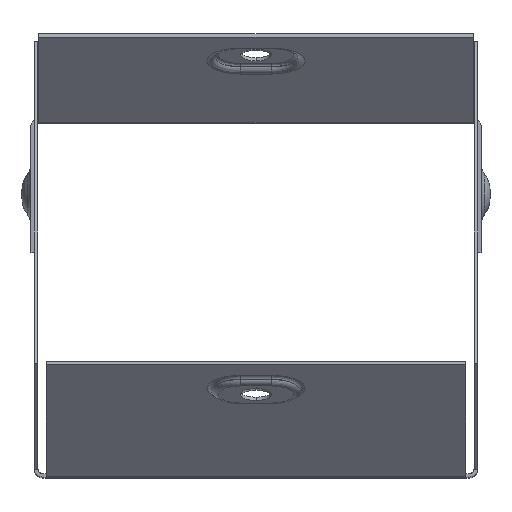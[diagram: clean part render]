
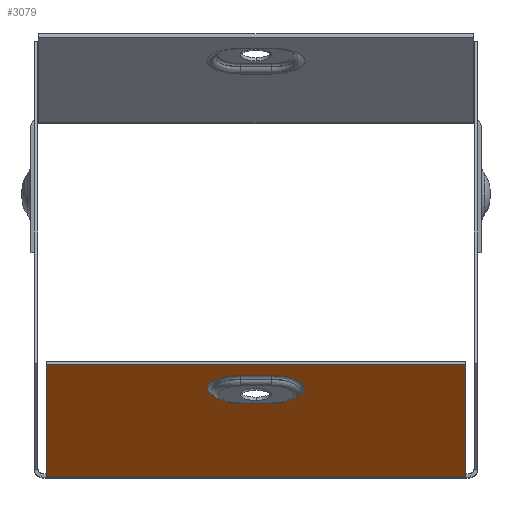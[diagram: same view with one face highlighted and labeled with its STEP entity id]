
A CAD part, top view. The second image highlights one B-rep face of the part: STEP entity #3079.
In plain terms, the highlighted planar face has unit normal (0, -0.924, 0.383).
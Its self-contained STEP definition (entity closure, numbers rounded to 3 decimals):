
#9 = VERTEX_POINT ( 'NONE', #7453 ) ;
#289 = VECTOR ( 'NONE', #3958, 1000. ) ;
#687 = CARTESIAN_POINT ( 'NONE',  ( 47.299, -80.663, 64.406 ) ) ;
#704 = FACE_BOUND ( 'NONE', #2503, .T. ) ;
#788 = DIRECTION ( 'NONE',  ( 0., 0.924, -0.383 ) ) ;
#1129 = CIRCLE ( 'NONE', #5383, 7.598 ) ;
#1422 = EDGE_LOOP ( 'NONE', ( #3734, #10194, #3501, #9324 ) ) ;
#1622 = CARTESIAN_POINT ( 'NONE',  ( -47.299, -80.8, 64.075 ) ) ;
#2236 = EDGE_CURVE ( 'NONE', #6516, #9, #4136, .T. ) ;
#2260 = CIRCLE ( 'NONE', #9125, 7.598 ) ;
#2503 = EDGE_LOOP ( 'NONE', ( #10420, #8830, #9957, #5668 ) ) ;
#2644 = CARTESIAN_POINT ( 'NONE',  ( 47.299, -80.864, 63.921 ) ) ;
#3079 = ADVANCED_FACE ( 'NONE', ( #704, #13627 ), #6819, .F. ) ;
#3088 = EDGE_CURVE ( 'NONE', #3271, #8583, #7683, .T. ) ;
#3107 = VECTOR ( 'NONE', #10452, 1000. ) ;
#3271 = VERTEX_POINT ( 'NONE', #6485 ) ;
#3501 = ORIENTED_EDGE ( 'NONE', *, *, #11185, .T. ) ;
#3550 = DIRECTION ( 'NONE',  ( 0., 0.383, 0.924 ) ) ;
#3734 = ORIENTED_EDGE ( 'NONE', *, *, #2236, .T. ) ;
#3736 = EDGE_CURVE ( 'NONE', #9441, #9, #7323, .T. ) ;
#3958 = DIRECTION ( 'NONE',  ( -1., 0., 0. ) ) ;
#4136 = LINE ( 'NONE', #1622, #3107 ) ;
#4349 = VERTEX_POINT ( 'NONE', #12445 ) ;
#4437 = VECTOR ( 'NONE', #7502, 1000. ) ;
#4593 = VECTOR ( 'NONE', #10336, 1000. ) ;
#4919 = CARTESIAN_POINT ( 'NONE',  ( 48.2, -55.512, 125.125 ) ) ;
#4936 = LINE ( 'NONE', #2644, #4593 ) ;
#4985 = DIRECTION ( 'NONE',  ( 0., 0.924, -0.383 ) ) ;
#5215 = DIRECTION ( 'NONE',  ( 0., 0.383, 0.924 ) ) ;
#5383 = AXIS2_PLACEMENT_3D ( 'NONE', #12321, #12414, #7999 ) ;
#5543 = CARTESIAN_POINT ( 'NONE',  ( 3.5, -57.962, 119.21 ) ) ;
#5668 = ORIENTED_EDGE ( 'NONE', *, *, #6266, .T. ) ;
#6266 = EDGE_CURVE ( 'NONE', #8583, #6629, #1129, .T. ) ;
#6485 = CARTESIAN_POINT ( 'NONE',  ( 3.5, -63.778, 105.171 ) ) ;
#6516 = VERTEX_POINT ( 'NONE', #12738 ) ;
#6629 = VERTEX_POINT ( 'NONE', #8705 ) ;
#6816 = VECTOR ( 'NONE', #8850, 1000. ) ;
#6819 = PLANE ( 'NONE',  #8968 ) ;
#7323 = LINE ( 'NONE', #7345, #4437 ) ;
#7345 = CARTESIAN_POINT ( 'NONE',  ( 48.2, -80.663, 64.406 ) ) ;
#7453 = CARTESIAN_POINT ( 'NONE',  ( -47.299, -80.663, 64.406 ) ) ;
#7502 = DIRECTION ( 'NONE',  ( -1., 0., 0. ) ) ;
#7683 = LINE ( 'NONE', #11157, #12960 ) ;
#7999 = DIRECTION ( 'NONE',  ( 0., 0.383, 0.924 ) ) ;
#8428 = CARTESIAN_POINT ( 'NONE',  ( 3.5, -60.87, 112.191 ) ) ;
#8583 = VERTEX_POINT ( 'NONE', #13239 ) ;
#8666 = CARTESIAN_POINT ( 'NONE',  ( 3.5, -57.962, 119.21 ) ) ;
#8705 = CARTESIAN_POINT ( 'NONE',  ( -3.5, -57.962, 119.21 ) ) ;
#8830 = ORIENTED_EDGE ( 'NONE', *, *, #9357, .T. ) ;
#8850 = DIRECTION ( 'NONE',  ( 1., 0., 0. ) ) ;
#8968 = AXIS2_PLACEMENT_3D ( 'NONE', #12550, #4985, #3550 ) ;
#9125 = AXIS2_PLACEMENT_3D ( 'NONE', #8428, #788, #5215 ) ;
#9218 = LINE ( 'NONE', #5543, #6816 ) ;
#9324 = ORIENTED_EDGE ( 'NONE', *, *, #13724, .T. ) ;
#9357 = EDGE_CURVE ( 'NONE', #11085, #3271, #2260, .T. ) ;
#9441 = VERTEX_POINT ( 'NONE', #687 ) ;
#9957 = ORIENTED_EDGE ( 'NONE', *, *, #3088, .T. ) ;
#10181 = EDGE_CURVE ( 'NONE', #6629, #11085, #9218, .T. ) ;
#10194 = ORIENTED_EDGE ( 'NONE', *, *, #3736, .F. ) ;
#10317 = LINE ( 'NONE', #4919, #289 ) ;
#10336 = DIRECTION ( 'NONE',  ( 0., 0.383, 0.924 ) ) ;
#10420 = ORIENTED_EDGE ( 'NONE', *, *, #10181, .T. ) ;
#10452 = DIRECTION ( 'NONE',  ( 0., -0.383, -0.924 ) ) ;
#11085 = VERTEX_POINT ( 'NONE', #8666 ) ;
#11157 = CARTESIAN_POINT ( 'NONE',  ( 3.5, -63.778, 105.171 ) ) ;
#11185 = EDGE_CURVE ( 'NONE', #9441, #4349, #4936, .T. ) ;
#12261 = DIRECTION ( 'NONE',  ( -1., 0., 0. ) ) ;
#12321 = CARTESIAN_POINT ( 'NONE',  ( -3.5, -60.87, 112.191 ) ) ;
#12414 = DIRECTION ( 'NONE',  ( 0., 0.924, -0.383 ) ) ;
#12445 = CARTESIAN_POINT ( 'NONE',  ( 47.299, -55.512, 125.125 ) ) ;
#12550 = CARTESIAN_POINT ( 'NONE',  ( 48.2, -80.8, 64.075 ) ) ;
#12738 = CARTESIAN_POINT ( 'NONE',  ( -47.299, -55.512, 125.125 ) ) ;
#12960 = VECTOR ( 'NONE', #12261, 1000. ) ;
#13239 = CARTESIAN_POINT ( 'NONE',  ( -3.5, -63.778, 105.171 ) ) ;
#13627 = FACE_OUTER_BOUND ( 'NONE', #1422, .T. ) ;
#13724 = EDGE_CURVE ( 'NONE', #4349, #6516, #10317, .T. ) ;
